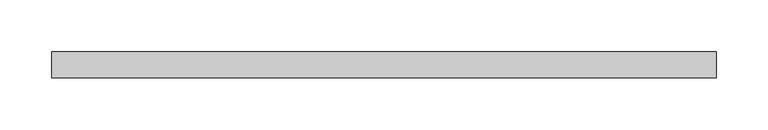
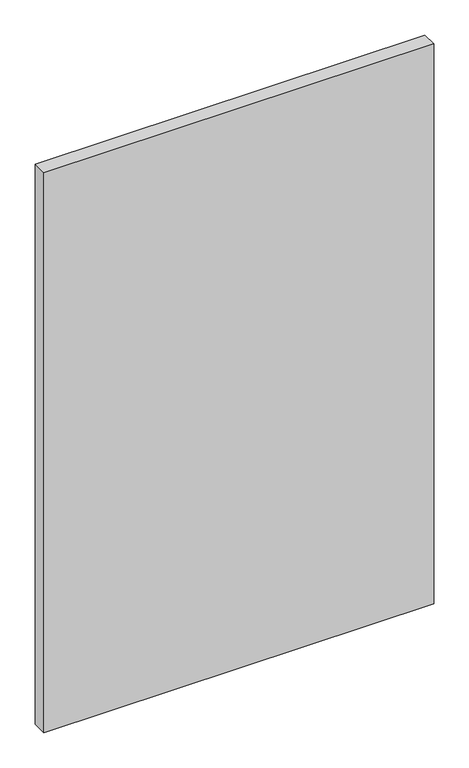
"""IFC4 building model written with IfcOpenShell, lengths in millimetres: plate geometry, システム パネル1 : ガラス."""

from ifc_helpers import new_model, si_unit, origin, origin_with_axes, place, context, project, spatial, polyline, outline, extrude, source, transform, mapped, element, save


def plate_81b017a3(model_context):
    return source(origin(), model_context, "Body", "SweptSolid", [
        extrude(outline(polyline([(320.8333333, 24.5), (-320.8333333, 24.5), (-320.8333333, 49.5), (320.8333333, 49.5), (320.8333333, 24.5)])), origin_with_axes(), (0.0, 0.0, 1.0), 975.0),
    ])


if __name__ == "__main__":
    model = new_model("IFC4")
    model_context = context("Model", 3, world=origin())
    ifc_project = project(units=[si_unit("LENGTHUNIT", "METRE", prefix="MILLI")], contexts=[model_context])
    site = spatial("IfcSite", under=ifc_project)
    building = spatial("IfcBuilding", under=site)
    placement = place(None, origin())
    plate_shape = plate_81b017a3(model_context)
    element("IfcPlate", 1, ObjectType="システム パネル1 : ガラス", at=placement, inside=building, context=model_context, shape_type="MappedRepresentation", body=[
        mapped(plate_shape, transform((0.0, 0.0, 0.0), x_axis=(1.0, 0.0, 0.0), y_axis=(0.0, 1.0, 0.0), z_axis=(0.0, 0.0, 1.0))),
    ])
    save(model, "model.ifc")
